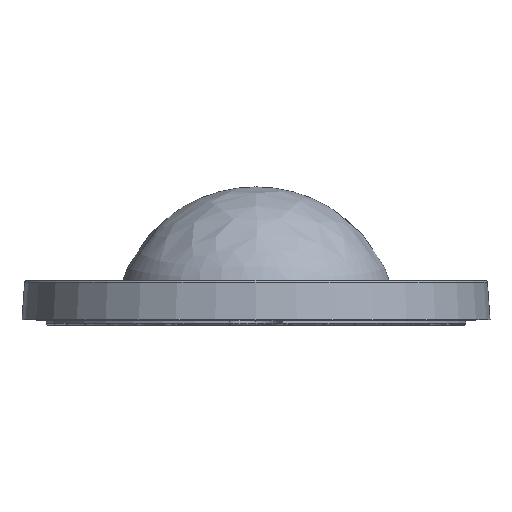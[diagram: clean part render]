
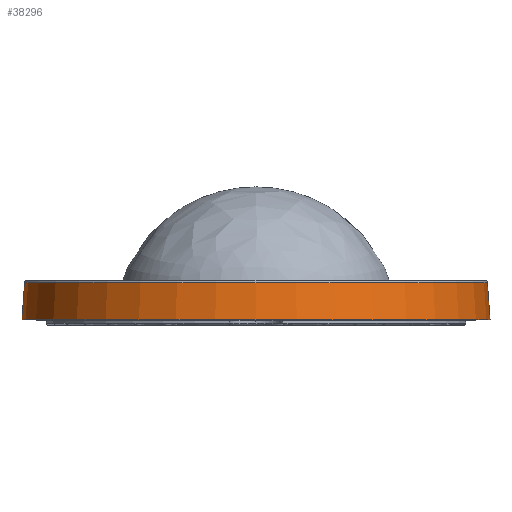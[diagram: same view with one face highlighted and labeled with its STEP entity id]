
A CAD part, left-side view. The second image highlights one B-rep face of the part: STEP entity #38296.
In plain terms, the highlighted conical face has half-angle 4 degrees and reference radius 50 mm.
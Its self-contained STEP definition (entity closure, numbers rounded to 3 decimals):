
#545 = AXIS2_PLACEMENT_3D ( 'NONE', #23540, #52889, #52711 ) ;
#1290 = DIRECTION ( 'NONE',  ( 0., 0.07, -0.998 ) ) ;
#2275 = CARTESIAN_POINT ( 'NONE',  ( -11.29, 49.315, -1.49 ) ) ;
#2756 = DIRECTION ( 'NONE',  ( 0., -1., 0. ) ) ;
#2836 = CARTESIAN_POINT ( 'NONE',  ( -11.29, -50.685, -1.49 ) ) ;
#3069 = CARTESIAN_POINT ( 'NONE',  ( -11.29, -0.685, -1.49 ) ) ;
#4108 = AXIS2_PLACEMENT_3D ( 'NONE', #53267, #28171, #2756 ) ;
#4741 = VERTEX_POINT ( 'NONE', #23906 ) ;
#6114 = AXIS2_PLACEMENT_3D ( 'NONE', #3069, #32652, #7350 ) ;
#6398 = ORIENTED_EDGE ( 'NONE', *, *, #18134, .T. ) ;
#7350 = DIRECTION ( 'NONE',  ( 0., 1., 0. ) ) ;
#13502 = VERTEX_POINT ( 'NONE', #21608 ) ;
#18134 = EDGE_CURVE ( 'NONE', #45362, #13502, #33029, .T. ) ;
#19395 = ORIENTED_EDGE ( 'NONE', *, *, #22772, .F. ) ;
#19943 = DIRECTION ( 'NONE',  ( 0., -0.07, -0.998 ) ) ;
#20509 = EDGE_LOOP ( 'NONE', ( #19395, #6398, #25797, #24529 ) ) ;
#20990 = EDGE_CURVE ( 'NONE', #4741, #27237, #46038, .T. ) ;
#21060 = VECTOR ( 'NONE', #19943, 1000. ) ;
#21608 = CARTESIAN_POINT ( 'NONE',  ( -11.29, 48.76, 6.445 ) ) ;
#22772 = EDGE_CURVE ( 'NONE', #45362, #4741, #32239, .T. ) ;
#23298 = CARTESIAN_POINT ( 'NONE',  ( -11.29, -50.13, 6.445 ) ) ;
#23540 = CARTESIAN_POINT ( 'NONE',  ( -11.29, -0.685, -1.49 ) ) ;
#23906 = CARTESIAN_POINT ( 'NONE',  ( -11.29, -50.685, -1.49 ) ) ;
#24529 = ORIENTED_EDGE ( 'NONE', *, *, #20990, .F. ) ;
#25797 = ORIENTED_EDGE ( 'NONE', *, *, #46343, .T. ) ;
#27237 = VERTEX_POINT ( 'NONE', #2275 ) ;
#28171 = DIRECTION ( 'NONE',  ( 0., 0., -1. ) ) ;
#32239 = LINE ( 'NONE', #2836, #21060 ) ;
#32652 = DIRECTION ( 'NONE',  ( 0., 0., -1. ) ) ;
#32723 = FACE_OUTER_BOUND ( 'NONE', #20509, .T. ) ;
#33029 = CIRCLE ( 'NONE', #4108, 49.445 ) ;
#38296 = ADVANCED_FACE ( 'NONE', ( #32723 ), #42640, .T. ) ;
#42640 = CONICAL_SURFACE ( 'NONE', #545, 50., 0.07 ) ;
#43428 = CARTESIAN_POINT ( 'NONE',  ( -11.29, 49.315, -1.49 ) ) ;
#45362 = VERTEX_POINT ( 'NONE', #23298 ) ;
#46038 = CIRCLE ( 'NONE', #6114, 50. ) ;
#46343 = EDGE_CURVE ( 'NONE', #13502, #27237, #51388, .T. ) ;
#50075 = VECTOR ( 'NONE', #1290, 1000. ) ;
#51388 = LINE ( 'NONE', #43428, #50075 ) ;
#52711 = DIRECTION ( 'NONE',  ( 0., 1., 0. ) ) ;
#52889 = DIRECTION ( 'NONE',  ( 0., 0., -1. ) ) ;
#53267 = CARTESIAN_POINT ( 'NONE',  ( -11.29, -0.685, 6.445 ) ) ;
